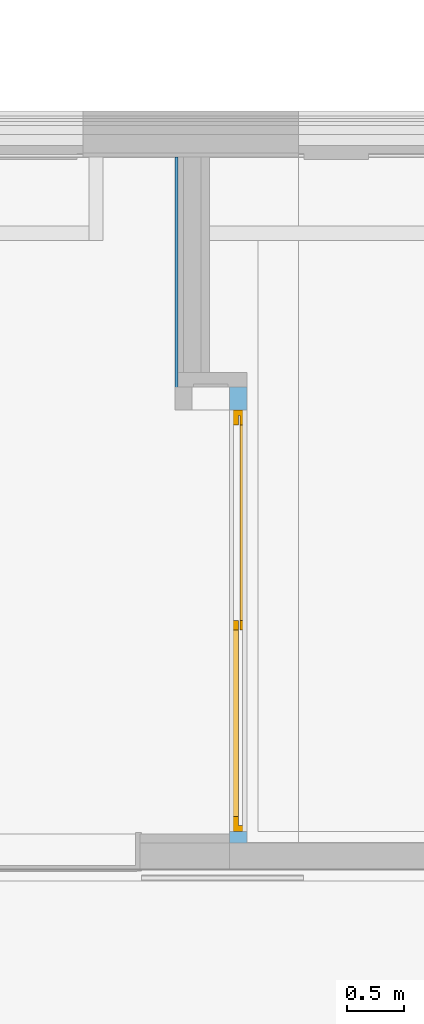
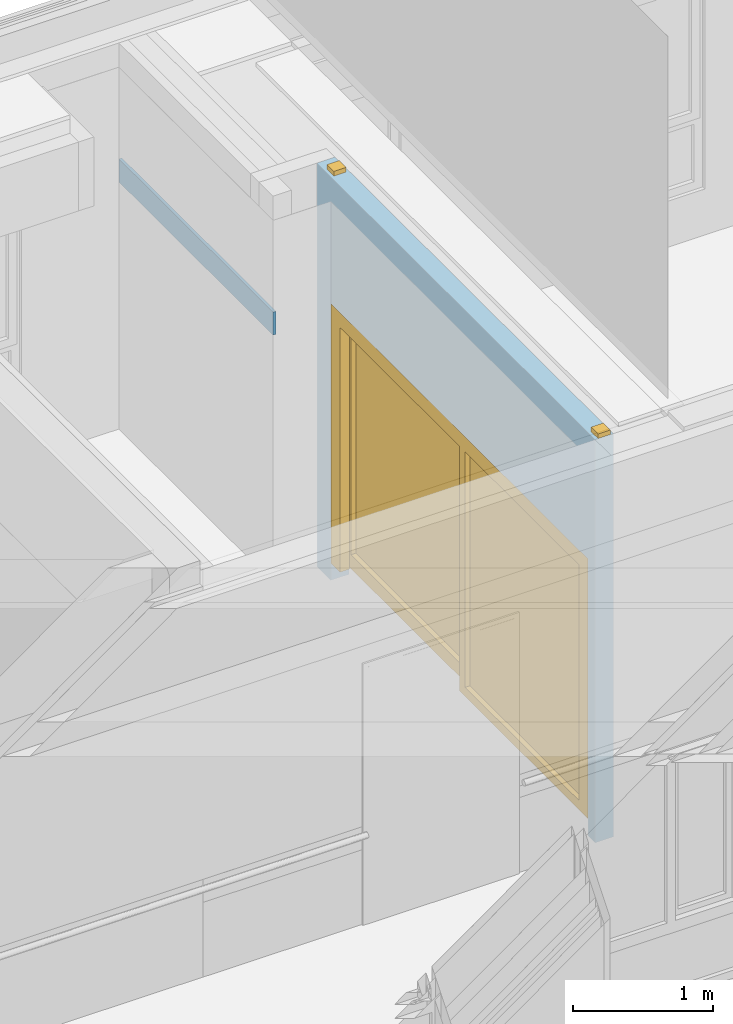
# One storey, part 109 of 222: 1 door, 1 wall, 1 opening, plus 1 element that does not belong to this part.
"""IFC4 building model written with IfcOpenShell, lengths in metres."""

from ifc_helpers import new_model, entity, si_unit, converted_unit, derived_unit, frame, frame_2d, origin, origin_with_axes, place, context, subcontext, project, spatial, polyline, rectangle, outline, extrude, closed_shell, open_shell, faceted_brep, surface_model, source, transform, mapped, material, element, fill, save


model = new_model("IFC4")

# Units and contexts
model_context = context("Model", 3, precision=1e-05, world=origin())
body_context = subcontext(model_context, "Body", "Model", "MODEL_VIEW")
ifc_project = project(units=[si_unit("LENGTHUNIT", "METRE"), si_unit("AREAUNIT", "SQUARE_METRE"), si_unit("VOLUMEUNIT", "CUBIC_METRE"), si_unit("MASSUNIT", "GRAM", prefix="KILO"), converted_unit("PLANEANGLEUNIT", "DEGREE", entity("IfcPlaneAngleMeasure", 0.0174532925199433), si_unit("PLANEANGLEUNIT", "RADIAN"), dimensions=[0, 0, 0, 0, 0, 0, 0]), derived_unit("THERMALTRANSMITTANCEUNIT", [(si_unit("POWERUNIT", "WATT"), 1), (si_unit("THERMODYNAMICTEMPERATUREUNIT", "KELVIN"), -1), (si_unit("LENGTHUNIT", "METRE"), -2)]), derived_unit("VOLUMETRICFLOWRATEUNIT", [(si_unit("LENGTHUNIT", "METRE"), 3), (converted_unit("TIMEUNIT", "hour", entity("IfcTimeMeasure", 3600.0), si_unit("TIMEUNIT", "SECOND"), dimensions=[0, 0, 1, 0, 0, 0, 0]), -1), (si_unit("LENGTHUNIT", "METRE"), -1)])], contexts=[model_context])

# Site, building, storey
site_placement = place(None, origin())
site = spatial("IfcSite", under=ifc_project, at=site_placement, Name="Psychiatrie Neubau Wunstorf", CompositionType="ELEMENT")
building_placement = place(site_placement, origin())
building = spatial("IfcBuilding", under=site, at=building_placement, Name="Neubau H2 Stationsgebäude", CompositionType="ELEMENT")
storey_placement = place(building_placement, frame((0.0, 0.0, 3.6)))
storey = spatial("IfcBuildingStorey", under=building, at=storey_placement, Name="H2 Ebene +1", CompositionType="ELEMENT", Elevation=3.6)

# Wall, opening, door
ifc_material_1 = material(Name="WI-LB")
wall_1_placement = place(storey_placement, frame((61.464, 27.0639996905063, 0.0), z_axis=(0.0, 0.0, 1.0), x_axis=(0.0, -1.0, 0.0)))
wall_1 = element("IfcWall", 1, at=wall_1_placement, inside=storey, material=ifc_material_1, context=body_context, shape_type="SweptSolid", body=[
    extrude(rectangle(XDim=3.96799969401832, YDim=0.15, at=frame_2d((1.98399984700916, 0.075), x_axis=(1.0, 0.0))), origin_with_axes(), (0.0, 0.0, 1.0), 3.51),
])
opening_placement = place(wall_1_placement, frame((0.200000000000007, 0.0, 0.0), z_axis=(0.0, 1.0, 0.0), x_axis=(0.0, 0.0, 1.0)))
opening = element("IfcOpeningElement", 2, at=opening_placement, cuts=wall_1, Name="Türöffnung", ObjectType="Opening", context=body_context, shape_type="SweptSolid", body=[
    extrude(outline(polyline([(2.41, 3.668), (2.41, 0.0), (0.0, 0.0), (0.0, 3.668), (2.41, 3.668)])), origin_with_axes(), (0.0, 0.0, 1.0), 0.15),
])
ifc_material_2 = material(Name="TI-1F-AG-S")
shared_shape_1 = source(origin_with_axes(), body_context, "Body", "Brep", [
    faceted_brep([(-0.0999999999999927, 0.0249999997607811, 0.0), (0.0, 0.0249999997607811, 0.0), (0.0, 0.124999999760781, 0.0), (-0.0999999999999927, 0.124999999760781, 0.0), (-0.0999999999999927, 0.124999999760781, 3.55), (0.0, 0.124999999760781, 3.55), (0.0, 0.0249999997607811, 3.55), (-0.0999999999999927, 0.0249999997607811, 3.55)], [[[0, 1, 2, 3]], [[4, 5, 6, 7]], [[3, 4, 7, 0]], [[2, 5, 4, 3]], [[1, 6, 5, 2]], [[0, 7, 6, 1]]], orient=[[False], [False], [False], [False], [False], [False]]),
    faceted_brep([(3.66800000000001, 0.0249999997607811, 0.0), (3.76800000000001, 0.0249999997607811, 0.0), (3.76800000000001, 0.124999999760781, 0.0), (3.66800000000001, 0.124999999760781, 0.0), (3.66800000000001, 0.124999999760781, 3.55), (3.76800000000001, 0.124999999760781, 3.55), (3.76800000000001, 0.0249999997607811, 3.55), (3.66800000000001, 0.0249999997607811, 3.55)], [[[0, 1, 2, 3]], [[4, 5, 6, 7]], [[3, 4, 7, 0]], [[2, 5, 4, 3]], [[1, 6, 5, 2]], [[0, 7, 6, 1]]], orient=[[False], [False], [False], [False], [False], [False]]),
    faceted_brep([(0.0, 0.0249999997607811, 2.41), (3.66800000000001, 0.0249999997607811, 2.41), (3.66800000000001, 0.124999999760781, 2.41), (0.0, 0.124999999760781, 2.41), (0.0, 0.124999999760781, 2.51), (3.66800000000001, 0.124999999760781, 2.51), (3.66800000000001, 0.0249999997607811, 2.51), (0.0, 0.0249999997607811, 2.51)], [[[0, 1, 2, 3]], [[4, 5, 6, 7]], [[3, 4, 7, 0]], [[2, 5, 4, 3]], [[1, 6, 5, 2]], [[0, 7, 6, 1]]], orient=[[False], [False], [False], [False], [False], [False]]),
])
shared_shape_2 = source(origin_with_axes(), body_context, "Body", "SurfaceModel", [
    surface_model("IfcShellBasedSurfaceModel", [(0.0, 0.149999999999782, 2.41), (0.0, 0.149999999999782, 0.15), (0.0500000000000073, 0.149999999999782, 0.15), (0.0500000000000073, 0.149999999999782, 2.41), (0.0, 0.0, 0.15), (0.0, 0.0, 2.41), (0.0500000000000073, 0.0, 2.41), (0.0500000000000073, 0.0, 0.15)], [closed_shell([[[0, 1, 2, 3]], [[4, 5, 6, 7]], [[1, 0, 5, 4]], [[2, 1, 4, 7]], [[3, 2, 7, 6]], [[0, 3, 6, 5]]], orient=[[False], [False], [False], [False], [False], [False]])]),
    surface_model("IfcShellBasedSurfaceModel", [(3.61800000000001, 0.149999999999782, 2.41), (3.61800000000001, 0.149999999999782, 0.15), (3.66800000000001, 0.149999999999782, 0.15), (3.66800000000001, 0.149999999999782, 2.41), (3.61800000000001, 0.0, 0.15), (3.61800000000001, 0.0, 2.41), (3.66800000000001, 0.0, 2.41), (3.66800000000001, 0.0, 0.15)], [closed_shell([[[0, 1, 2, 3]], [[4, 5, 6, 7]], [[1, 0, 5, 4]], [[2, 1, 4, 7]], [[3, 2, 7, 6]], [[0, 3, 6, 5]]], orient=[[False], [False], [False], [False], [False], [False]])]),
    surface_model("IfcShellBasedSurfaceModel", [(0.0500000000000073, 0.149999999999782, 2.41), (0.0500000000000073, 0.149999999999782, 2.36), (3.61800000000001, 0.149999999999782, 2.36), (3.61800000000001, 0.149999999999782, 2.41), (0.0500000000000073, 0.0, 2.36), (0.0500000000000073, 0.0, 2.41), (3.61800000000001, 0.0, 2.41), (3.61800000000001, 0.0, 2.36)], [closed_shell([[[0, 1, 2, 3]], [[4, 5, 6, 7]], [[1, 0, 5, 4]], [[2, 1, 4, 7]], [[3, 2, 7, 6]], [[0, 3, 6, 5]]], orient=[[False], [False], [False], [False], [False], [False]])]),
    surface_model("IfcShellBasedSurfaceModel", [(0.0500000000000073, 0.0799999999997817, 2.36), (0.0500000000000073, 0.0799999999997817, 0.15), (0.130000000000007, 0.0799999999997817, 0.15), (0.130000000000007, 0.0799999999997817, 2.36), (0.0500000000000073, 0.0, 0.15), (0.0500000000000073, 0.0, 2.36), (0.130000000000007, 0.0, 2.36), (0.130000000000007, 0.0, 0.15)], [closed_shell([[[0, 1, 2, 3]], [[4, 5, 6, 7]], [[1, 0, 5, 4]], [[2, 1, 4, 7]], [[3, 2, 7, 6]], [[0, 3, 6, 5]]], orient=[[False], [False], [False], [False], [False], [False]])]),
    surface_model("IfcShellBasedSurfaceModel", [(3.53800000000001, 0.0799999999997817, 2.36), (3.53800000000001, 0.0799999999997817, 0.15), (3.61800000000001, 0.0799999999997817, 0.15), (3.61800000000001, 0.0799999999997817, 2.36), (3.53800000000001, 0.0, 0.15), (3.53800000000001, 0.0, 2.36), (3.61800000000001, 0.0, 2.36), (3.61800000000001, 0.0, 0.15)], [closed_shell([[[0, 1, 2, 3]], [[4, 5, 6, 7]], [[1, 0, 5, 4]], [[2, 1, 4, 7]], [[3, 2, 7, 6]], [[0, 3, 6, 5]]], orient=[[False], [False], [False], [False], [False], [False]])]),
    surface_model("IfcShellBasedSurfaceModel", [(0.130000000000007, 0.0799999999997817, 2.36), (0.130000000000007, 0.0799999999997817, 2.28), (3.53800000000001, 0.0799999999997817, 2.28), (3.53800000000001, 0.0799999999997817, 2.36), (0.130000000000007, 0.0, 2.28), (0.130000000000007, 0.0, 2.36), (3.53800000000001, 0.0, 2.36), (3.53800000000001, 0.0, 2.28)], [closed_shell([[[0, 1, 2, 3]], [[4, 5, 6, 7]], [[1, 0, 5, 4]], [[2, 1, 4, 7]], [[3, 2, 7, 6]], [[0, 3, 6, 5]]], orient=[[False], [False], [False], [False], [False], [False]])]),
    surface_model("IfcShellBasedSurfaceModel", [(0.0500000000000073, 0.169999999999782, 2.36), (0.0500000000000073, 0.169999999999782, 0.15), (0.130000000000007, 0.169999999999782, 0.15), (0.130000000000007, 0.169999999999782, 2.36), (0.0500000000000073, 0.0899999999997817, 0.15), (0.0500000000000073, 0.0899999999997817, 2.36), (0.130000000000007, 0.0899999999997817, 2.36), (0.130000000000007, 0.0899999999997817, 0.15)], [closed_shell([[[0, 1, 2, 3]], [[4, 5, 6, 7]], [[1, 0, 5, 4]], [[2, 1, 4, 7]], [[3, 2, 7, 6]], [[0, 3, 6, 5]]], orient=[[False], [False], [False], [False], [False], [False]])]),
    surface_model("IfcShellBasedSurfaceModel", [(1.83350000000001, 0.169999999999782, 2.36), (1.83350000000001, 0.169999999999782, 0.15), (1.91350000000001, 0.169999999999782, 0.15), (1.91350000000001, 0.169999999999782, 2.36), (1.83350000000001, 0.0899999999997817, 0.15), (1.83350000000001, 0.0899999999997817, 2.36), (1.91350000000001, 0.0899999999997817, 2.36), (1.91350000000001, 0.0899999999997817, 0.15)], [closed_shell([[[0, 1, 2, 3]], [[4, 5, 6, 7]], [[1, 0, 5, 4]], [[2, 1, 4, 7]], [[3, 2, 7, 6]], [[0, 3, 6, 5]]], orient=[[False], [False], [False], [False], [False], [False]])]),
    surface_model("IfcShellBasedSurfaceModel", [(0.130000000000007, 0.169999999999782, 0.27), (0.130000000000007, 0.169999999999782, 0.15), (1.83350000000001, 0.169999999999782, 0.15), (1.83350000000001, 0.169999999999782, 0.27), (0.130000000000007, 0.0899999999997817, 0.15), (0.130000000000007, 0.0899999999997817, 0.27), (1.83350000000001, 0.0899999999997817, 0.27), (1.83350000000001, 0.0899999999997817, 0.15)], [closed_shell([[[0, 1, 2, 3]], [[4, 5, 6, 7]], [[1, 0, 5, 4]], [[2, 1, 4, 7]], [[3, 2, 7, 6]], [[0, 3, 6, 5]]], orient=[[False], [False], [False], [False], [False], [False]])]),
    surface_model("IfcShellBasedSurfaceModel", [(0.130000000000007, 0.169999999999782, 2.36), (0.130000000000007, 0.169999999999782, 2.28), (1.83350000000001, 0.169999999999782, 2.28), (1.83350000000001, 0.169999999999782, 2.36), (0.130000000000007, 0.0899999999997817, 2.28), (0.130000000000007, 0.0899999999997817, 2.36), (1.83350000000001, 0.0899999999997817, 2.36), (1.83350000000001, 0.0899999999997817, 2.28)], [closed_shell([[[0, 1, 2, 3]], [[4, 5, 6, 7]], [[1, 0, 5, 4]], [[2, 1, 4, 7]], [[3, 2, 7, 6]], [[0, 3, 6, 5]]], orient=[[False], [False], [False], [False], [False], [False]])]),
    surface_model("IfcShellBasedSurfaceModel", [(1.83450000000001, 0.0799999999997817, 2.28), (1.83450000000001, 0.0799999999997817, 0.15), (1.91450000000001, 0.0799999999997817, 0.15), (1.91450000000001, 0.0799999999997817, 2.28), (1.83450000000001, 0.0, 0.15), (1.83450000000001, 0.0, 2.28), (1.91450000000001, 0.0, 2.28), (1.91450000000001, 0.0, 0.15)], [closed_shell([[[0, 1, 2, 3]], [[4, 5, 6, 7]], [[1, 0, 5, 4]], [[2, 1, 4, 7]], [[3, 2, 7, 6]], [[0, 3, 6, 5]]], orient=[[False], [False], [False], [False], [False], [False]])]),
    surface_model("IfcShellBasedSurfaceModel", [(1.91450000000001, 0.0799999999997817, 0.23), (1.91450000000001, 0.0799999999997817, 0.15), (3.53800000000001, 0.0799999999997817, 0.15), (3.53800000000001, 0.0799999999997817, 0.23), (1.91450000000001, 0.0, 0.15), (1.91450000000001, 0.0, 0.23), (3.53800000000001, 0.0, 0.23), (3.53800000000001, 0.0, 0.15)], [closed_shell([[[0, 1, 2, 3]], [[4, 5, 6, 7]], [[1, 0, 5, 4]], [[2, 1, 4, 7]], [[3, 2, 7, 6]], [[0, 3, 6, 5]]], orient=[[False], [False], [False], [False], [False], [False]])]),
    surface_model("IfcShellBasedSurfaceModel", [(1.91450000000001, 0.0399999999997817, 0.23), (3.53800000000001, 0.0399999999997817, 0.23), (3.53800000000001, 0.0399999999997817, 2.28), (1.91450000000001, 0.0399999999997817, 2.28)], [open_shell([[[0, 1, 2, 3]]], orient=[[False]])]),
    surface_model("IfcShellBasedSurfaceModel", [(0.130000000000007, 0.129999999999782, 0.27), (1.83350000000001, 0.129999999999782, 0.27), (1.83350000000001, 0.129999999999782, 2.28), (0.130000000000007, 0.129999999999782, 2.28)], [open_shell([[[0, 1, 2, 3]]], orient=[[False]])]),
])
door_placement = place(opening_placement, frame((0.0, 0.0, 0.0), z_axis=(1.0, 0.0, 0.0), x_axis=(0.0, 1.0, 0.0)))
door = element("IfcDoor", 3, at=door_placement, inside=storey, material=ifc_material_2, Name="SMT", OperationType="USERDEFINED", OverallHeight=2.41, OverallWidth=3.668, PredefinedType="DOOR", context=body_context, shape_type="MappedRepresentation", body=[
    mapped(shared_shape_1, transform((0.0, 0.0, 0.0), x_axis=(1.0, 0.0, 0.0), y_axis=(0.0, 1.0, 0.0), z_axis=(0.0, 0.0, 1.0), scale=1.0)),
    mapped(shared_shape_2, transform((0.0, 0.0, 0.0), x_axis=(1.0, 0.0, 0.0), y_axis=(0.0, 1.0, 0.0), z_axis=(0.0, 0.0, 1.0), scale=1.0)),
])
fill(opening, door)

# Wall
wall_2_placement = place(storey_placement, frame((60.989, 26.8639996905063, 2.3)))
element("IfcWall", 4, at=wall_2_placement, inside=storey, Name="WV 1.1", context=body_context, shape_type="Brep", body=[
    faceted_brep([(0.025, 2.2, 0.0), (0.0, 2.2, 0.0), (0.0, 0.0, 0.0), (0.025, 0.0, 0.0), (0.0, 2.2, 0.2), (0.025, 2.2, 0.2), (0.025, 0.0, 0.2), (0.0, 0.0, 0.2)], [[[0, 1, 2, 3]], [[4, 5, 6, 7]], [[1, 0, 5, 4]], [[2, 1, 4, 7]], [[3, 2, 7, 6]], [[0, 3, 6, 5]]], orient=[[False], [False], [False], [False], [False], [False]]),
])

save(model, "model.ifc")
